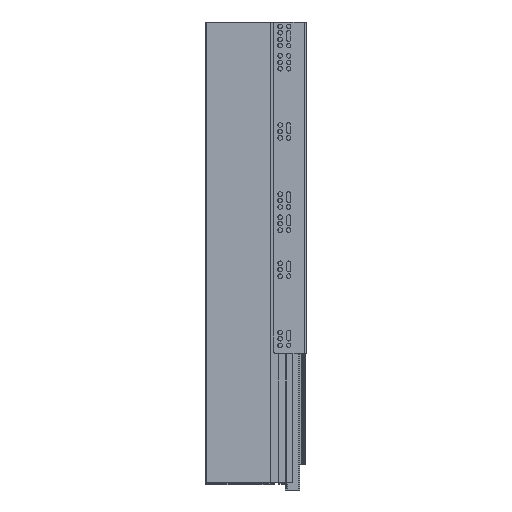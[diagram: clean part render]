
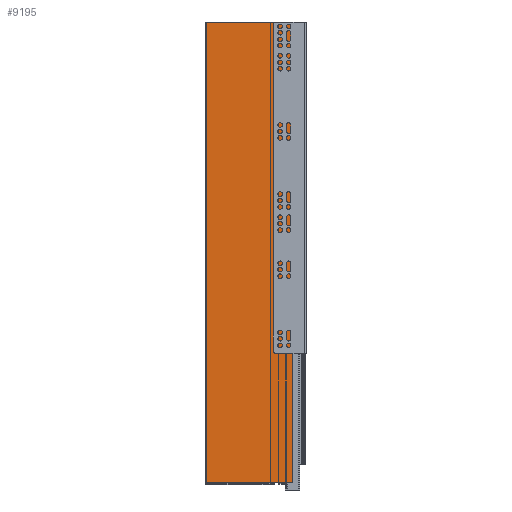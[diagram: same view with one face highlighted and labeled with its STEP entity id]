
A CAD part, left-side view. The second image highlights one B-rep face of the part: STEP entity #9195.
In plain terms, the highlighted planar face has unit normal (-1, 0, 0).
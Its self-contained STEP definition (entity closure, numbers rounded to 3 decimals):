
#365 = CARTESIAN_POINT ( 'NONE',  ( 0., 0., 0. ) ) ;
#490 = CARTESIAN_POINT ( 'NONE',  ( 0., 0., -640. ) ) ;
#724 = DIRECTION ( 'NONE',  ( 0., 0., -1. ) ) ;
#2380 = DIRECTION ( 'NONE',  ( 0., 0., 1. ) ) ;
#2708 = LINE ( 'NONE', #13157, #10295 ) ;
#3599 = EDGE_CURVE ( 'NONE', #11196, #6108, #18688, .T. ) ;
#4142 = ORIENTED_EDGE ( 'NONE', *, *, #8367, .T. ) ;
#4256 = DIRECTION ( 'NONE',  ( 1., 0., 0. ) ) ;
#5475 = CARTESIAN_POINT ( 'NONE',  ( 0., 0., -640. ) ) ;
#6039 = CARTESIAN_POINT ( 'NONE',  ( 0., 120., -640. ) ) ;
#6108 = VERTEX_POINT ( 'NONE', #19737 ) ;
#8367 = EDGE_CURVE ( 'NONE', #18801, #6108, #16340, .T. ) ;
#9195 = ADVANCED_FACE ( 'NONE', ( #16574 ), #12945, .F. ) ;
#10295 = VECTOR ( 'NONE', #16676, 1000. ) ;
#11196 = VERTEX_POINT ( 'NONE', #12478 ) ;
#12478 = CARTESIAN_POINT ( 'NONE',  ( 0., 120., -640. ) ) ;
#12945 = PLANE ( 'NONE',  #16185 ) ;
#13157 = CARTESIAN_POINT ( 'NONE',  ( 0., 0., -640. ) ) ;
#14575 = DIRECTION ( 'NONE',  ( 0., 1., 0. ) ) ;
#14607 = VECTOR ( 'NONE', #2380, 1000. ) ;
#14808 = EDGE_CURVE ( 'NONE', #17833, #11196, #2708, .T. ) ;
#15009 = ORIENTED_EDGE ( 'NONE', *, *, #14808, .F. ) ;
#16185 = AXIS2_PLACEMENT_3D ( 'NONE', #490, #4256, #724 ) ;
#16340 = LINE ( 'NONE', #365, #21383 ) ;
#16574 = FACE_OUTER_BOUND ( 'NONE', #19239, .T. ) ;
#16676 = DIRECTION ( 'NONE',  ( 0., 1., 0. ) ) ;
#17241 = CARTESIAN_POINT ( 'NONE',  ( 0., 0., 0. ) ) ;
#17833 = VERTEX_POINT ( 'NONE', #20476 ) ;
#18104 = EDGE_CURVE ( 'NONE', #17833, #18801, #19415, .T. ) ;
#18688 = LINE ( 'NONE', #6039, #14607 ) ;
#18801 = VERTEX_POINT ( 'NONE', #17241 ) ;
#19239 = EDGE_LOOP ( 'NONE', ( #4142, #19408, #15009, #21091 ) ) ;
#19298 = DIRECTION ( 'NONE',  ( 0., 0., 1. ) ) ;
#19408 = ORIENTED_EDGE ( 'NONE', *, *, #3599, .F. ) ;
#19415 = LINE ( 'NONE', #5475, #22713 ) ;
#19737 = CARTESIAN_POINT ( 'NONE',  ( 0., 120., 0. ) ) ;
#20476 = CARTESIAN_POINT ( 'NONE',  ( 0., 0., -640. ) ) ;
#21091 = ORIENTED_EDGE ( 'NONE', *, *, #18104, .T. ) ;
#21383 = VECTOR ( 'NONE', #14575, 1000. ) ;
#22713 = VECTOR ( 'NONE', #19298, 1000. ) ;
